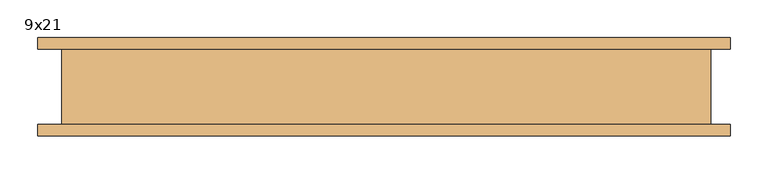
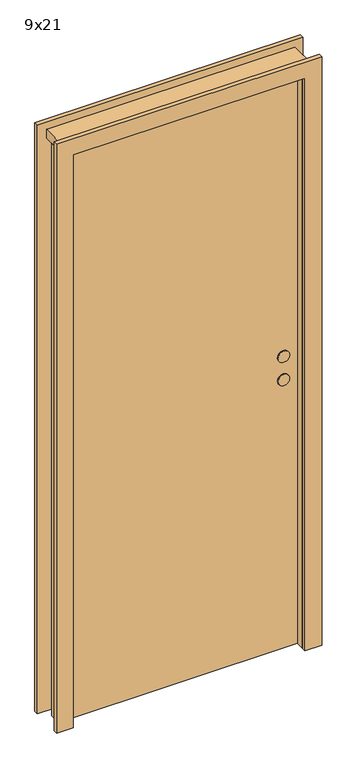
"""IFC4 building model written with IfcOpenShell, lengths in millimetres: door geometry, Innerdor Skyvedor Glatt : 9x21."""

from ifc_helpers import new_model, si_unit, point, frame, frame_2d, origin, origin_with_axes, place, context, project, spatial, polyline, circle_curve, trimmed, segment, composite_curve, outline, extrude, source, transform, mapped, element, save


def door_9x21_cc0549d7(model_context):
    return source(origin(), model_context, "Body", "SweptSolid", [
        extrude(outline(polyline([(403.0, 20.0), (403.0, -20.0), (-423.0, -20.0), (-423.0, 20.0), (403.0, 20.0)])), origin_with_axes(), (0.0, 0.0, 1.0), 2088.0),
        extrude(outline(composite_curve([segment(trimmed(circle_curve(frame_2d((980.0, 353.0)), 20.0), [point((980.0, 373.0))], [point((980.0, 333.0))], False, "CARTESIAN"), True, "CONTINUOUS"), segment(trimmed(circle_curve(frame_2d((980.0, 353.0)), 20.0), [point((980.0, 333.0))], [point((980.0, 373.0))], False, "CARTESIAN"), True, "CONTINUOUS")], self_intersect=False)), frame((0.0, 20.0, 0.0), z_axis=(0.0, 1.0, 0.0), x_axis=(0.0, 0.0, 1.0)), (0.0, 0.0, 1.0), 5.0),
        extrude(outline(composite_curve([segment(trimmed(circle_curve(frame_2d((1065.0, 353.0)), 20.0), [point((1065.0, 373.0))], [point((1065.0, 333.0))], False, "CARTESIAN"), True, "CONTINUOUS"), segment(trimmed(circle_curve(frame_2d((1065.0, 353.0)), 20.0), [point((1065.0, 333.0))], [point((1065.0, 373.0))], False, "CARTESIAN"), True, "CONTINUOUS")], self_intersect=False)), frame((0.0, 20.0, 0.0), z_axis=(0.0, 1.0, 0.0), x_axis=(0.0, 0.0, 1.0)), (0.0, 0.0, 1.0), 5.0),
        extrude(outline(composite_curve([segment(trimmed(circle_curve(frame_2d((980.0, 353.0)), 20.0), [point((980.0, 373.0))], [point((980.0, 333.0))], False, "CARTESIAN"), True, "CONTINUOUS"), segment(trimmed(circle_curve(frame_2d((980.0, 353.0)), 20.0), [point((980.0, 333.0))], [point((980.0, 373.0))], False, "CARTESIAN"), True, "CONTINUOUS")], self_intersect=False)), frame((0.0, -25.0, 0.0), z_axis=(0.0, 1.0, 0.0), x_axis=(0.0, 0.0, 1.0)), (0.0, 0.0, 1.0), 5.0),
        extrude(outline(composite_curve([segment(trimmed(circle_curve(frame_2d((1065.0, 353.0)), 20.0), [point((1065.0, 373.0))], [point((1065.0, 333.0))], False, "CARTESIAN"), True, "CONTINUOUS"), segment(trimmed(circle_curve(frame_2d((1065.0, 353.0)), 20.0), [point((1065.0, 333.0))], [point((1065.0, 373.0))], False, "CARTESIAN"), True, "CONTINUOUS")], self_intersect=False)), frame((0.0, -25.0, 0.0), z_axis=(0.0, 1.0, 0.0), x_axis=(0.0, 0.0, 1.0)), (0.0, 0.0, 1.0), 5.0),
        extrude(outline(polyline([(0.0, 435.0), (2120.0, 435.0), (2120.0, -423.0), (2088.0, -423.0), (2088.0, 403.0), (0.0, 403.0), (0.0, 435.0)])), frame((0.0, -50.0, 0.0), z_axis=(0.0, 1.0, 0.0), x_axis=(0.0, 0.0, 1.0)), (0.0, 0.0, 1.0), 100.0),
        extrude(outline(polyline([(0.0, 461.0), (2146.0, 461.0), (2146.0, -455.0), (0.0, -455.0), (0.0, -397.0), (2088.0, -397.0), (2088.0, 403.0), (0.0, 403.0), (0.0, 461.0)])), frame((0.0, -65.0, 0.0), z_axis=(0.0, 1.0, 0.0), x_axis=(0.0, 0.0, 1.0)), (0.0, 0.0, 1.0), 15.0),
        extrude(outline(polyline([(0.0, 461.0), (2146.0, 461.0), (2146.0, -455.0), (0.0, -455.0), (0.0, -397.0), (2088.0, -397.0), (2088.0, 403.0), (0.0, 403.0), (0.0, 461.0)])), frame((0.0, 50.0, 0.0), z_axis=(0.0, 1.0, 0.0), x_axis=(0.0, 0.0, 1.0)), (0.0, 0.0, 1.0), 15.0),
    ])


if __name__ == "__main__":
    model = new_model("IFC4")
    model_context = context("Model", 3, world=origin())
    ifc_project = project(units=[si_unit("LENGTHUNIT", "METRE", prefix="MILLI")], contexts=[model_context])
    site = spatial("IfcSite", under=ifc_project)
    building = spatial("IfcBuilding", under=site)
    placement = place(None, origin())
    door_9x21_shape = door_9x21_cc0549d7(model_context)
    element("IfcDoor", 1, ObjectType="Innerdor Skyvedor Glatt : 9x21", at=placement, inside=building, context=model_context, shape_type="MappedRepresentation", body=[
        mapped(door_9x21_shape, transform((0.0, 0.0, 0.0), x_axis=(1.0, 0.0, 0.0), y_axis=(0.0, 1.0, 0.0), z_axis=(0.0, 0.0, 1.0))),
    ])
    save(model, "model.ifc")
